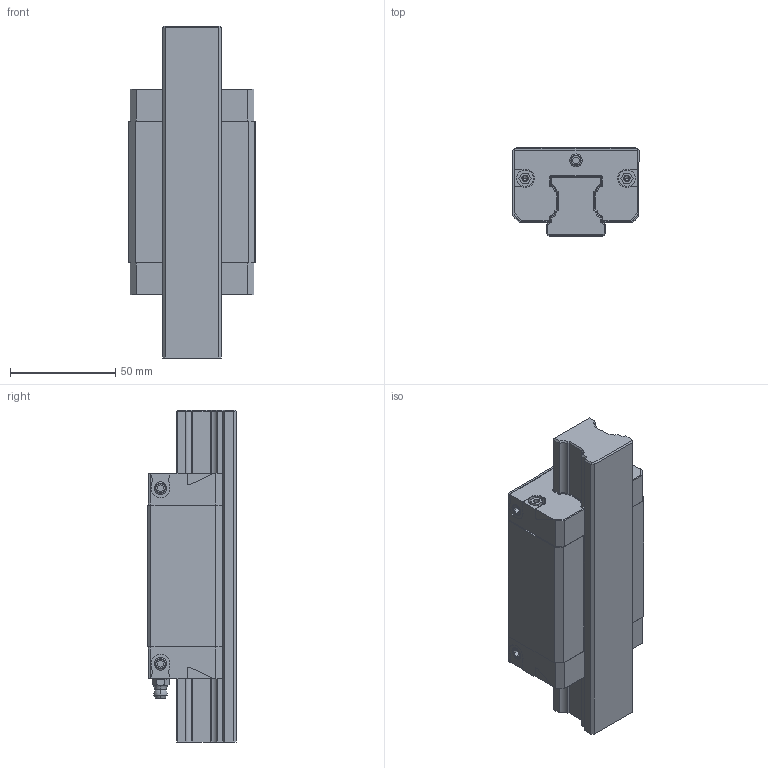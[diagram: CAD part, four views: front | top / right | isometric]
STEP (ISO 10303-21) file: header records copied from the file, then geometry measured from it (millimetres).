
FILE_DESCRIPTION((''),'2;1');
FILE_NAME('KWD_030_SNS_CS__ASM','2021-10-14T06:39:46',('ac91sw'),(''),'CREO PARAMETRIC BY PTC INC, 2020044','CREO PARAMETRIC BY PTC INC, 2020044','');
FILE_SCHEMA(('AUTOMOTIVE_DESIGN { 1 0 10303 214 1 1 1 1 }'));
Length unit declared in the file: millimetre
Products named in the file (7): KWD_030_SNS_CS__SKEL; R201170101; R200170102_Z; R343706101_Z; KWD_030_SNS_CS__PSF; R341700802_Z; KWD_030_SNS_CS__ASM
Assembly tree (11 placements, depth 2):
  KWD_030_SNS_CS__ASM
    KWD_030_SNS_CS__SKEL
    R201170101
    R200170102_Z  x2
    R343706101_Z  x5
    KWD_030_SNS_CS__PSF
    R341700802_Z
Bounding box: 60 x 42 x 157.7 mm (x, y, z)
Volume: 231908.4 mm3; surface area: 63184.3 mm2
Topology: 10 solids, 24 shells, 512 faces, 1310 edges, 830 vertices
Faces by surface type: plane 292, cylinder 142, cone 72, torus 4, sphere 2
Entity records: 16420 total; most frequent: CARTESIAN_POINT 1941, DIRECTION 1648, ORIENTED_EDGE 1540, PROPERTY_DEFINITION 822, REPRESENTATION 813, PROPERTY_DEFINITION_REPRESENTATION 813, EDGE_CURVE 786, DESCRIPTIVE_REPRESENTATION_ITEM 756
